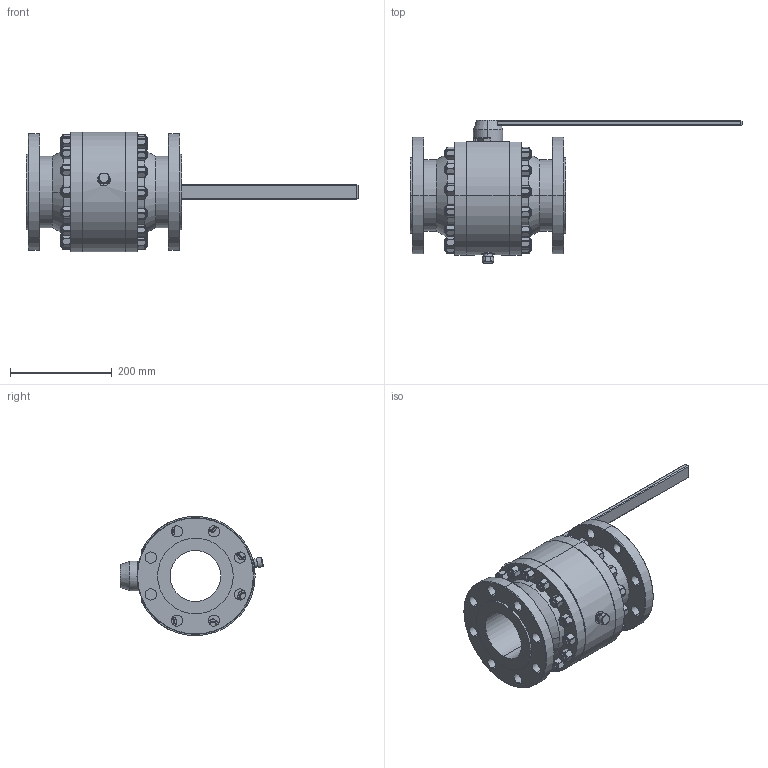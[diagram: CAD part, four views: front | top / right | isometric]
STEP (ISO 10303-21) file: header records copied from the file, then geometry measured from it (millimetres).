
FILE_DESCRIPTION(('STEP AP203'), '1');
FILE_NAME('ZARDP 100.040.22.P.stp', '2013-12-09T06:06:35', ('UNSPECIFIED UNSPECIFIED'), ('UNSPECIFIED'), 'ASCON STEP Converter 1.3', 'Kompas 3D', '');
FILE_SCHEMA(('CONFIG_CONTROL_DESIGN','SUPPORT_RESOURCE_SCHEMA'));
Length unit declared in the file: millimetre
Products named in the file (1): 25
Bounding box: 653.5 x 281.53 x 235 mm (x, y, z)
Volume: 6195692.6 mm3; surface area: 840154.2 mm2
Topology: 63 solids, 63 shells, 1284 faces, 3005 edges, 1867 vertices
Faces by surface type: cone 466, cylinder 463, plane 355
Entity records: 54632 total; most frequent: CARTESIAN_POINT 24899, DIRECTION 6114, ORIENTED_EDGE 6010, EDGE_CURVE 3005, AXIS2_PLACEMENT_3D 2621, VERTEX_POINT 1867, EDGE_LOOP 1482, CIRCLE 1336
